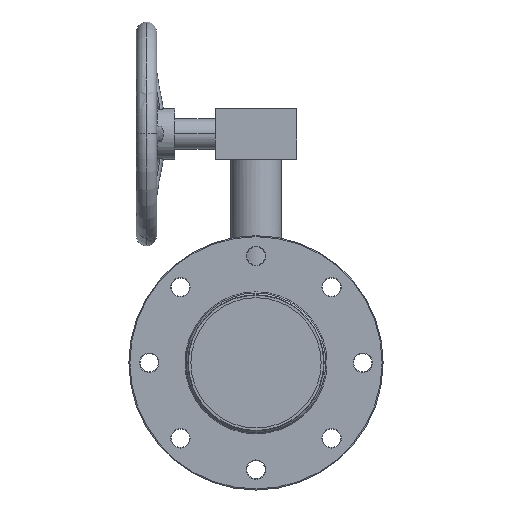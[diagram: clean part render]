
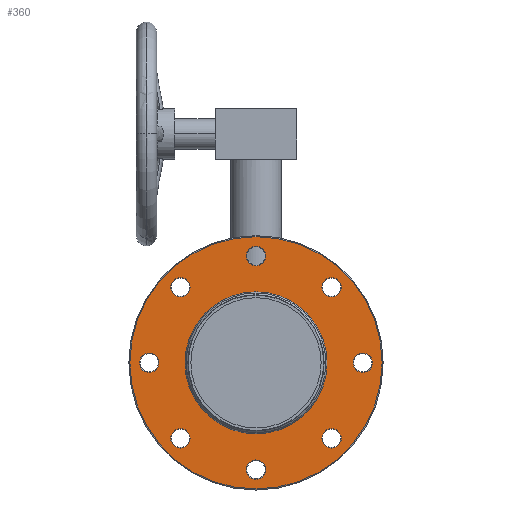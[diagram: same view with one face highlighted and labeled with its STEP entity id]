
A CAD part, front view. The second image highlights one B-rep face of the part: STEP entity #360.
In plain terms, the highlighted planar face has unit normal (0, -1, 0).
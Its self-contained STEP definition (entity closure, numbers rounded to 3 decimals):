
#220=PLANE('',#2508);
#360=ADVANCED_FACE('',(#847,#848,#849,#850,#851,#852,#853,#854,#855,#856),
#220,.T.);
#622=CIRCLE('',#2497,66.5);
#623=CIRCLE('',#2499,9.5);
#624=CIRCLE('',#2500,9.5);
#625=CIRCLE('',#2501,9.5);
#626=CIRCLE('',#2502,9.5);
#627=CIRCLE('',#2503,9.5);
#628=CIRCLE('',#2504,9.5);
#629=CIRCLE('',#2505,9.5);
#630=CIRCLE('',#2506,9.5);
#631=CIRCLE('',#2507,124.);
#847=FACE_BOUND('',#1151,.T.);
#848=FACE_BOUND('',#1152,.T.);
#849=FACE_BOUND('',#1153,.T.);
#850=FACE_BOUND('',#1154,.T.);
#851=FACE_BOUND('',#1155,.T.);
#852=FACE_BOUND('',#1156,.T.);
#853=FACE_BOUND('',#1157,.T.);
#854=FACE_BOUND('',#1158,.T.);
#855=FACE_BOUND('',#1159,.T.);
#856=FACE_BOUND('',#1160,.T.);
#1151=EDGE_LOOP('',(#1651));
#1152=EDGE_LOOP('',(#1652));
#1153=EDGE_LOOP('',(#1653));
#1154=EDGE_LOOP('',(#1654));
#1155=EDGE_LOOP('',(#1655));
#1156=EDGE_LOOP('',(#1656));
#1157=EDGE_LOOP('',(#1657));
#1158=EDGE_LOOP('',(#1658));
#1159=EDGE_LOOP('',(#1659));
#1160=EDGE_LOOP('',(#1660));
#1651=ORIENTED_EDGE('',*,*,#2169,.T.);
#1652=ORIENTED_EDGE('',*,*,#2170,.T.);
#1653=ORIENTED_EDGE('',*,*,#2171,.T.);
#1654=ORIENTED_EDGE('',*,*,#2172,.T.);
#1655=ORIENTED_EDGE('',*,*,#2173,.T.);
#1656=ORIENTED_EDGE('',*,*,#2174,.T.);
#1657=ORIENTED_EDGE('',*,*,#2175,.T.);
#1658=ORIENTED_EDGE('',*,*,#2176,.T.);
#1659=ORIENTED_EDGE('',*,*,#2177,.T.);
#1660=ORIENTED_EDGE('',*,*,#2168,.F.);
#1918=VERTEX_POINT('',#4092);
#1919=VERTEX_POINT('',#4095);
#1920=VERTEX_POINT('',#4097);
#1921=VERTEX_POINT('',#4099);
#1922=VERTEX_POINT('',#4101);
#1923=VERTEX_POINT('',#4103);
#1924=VERTEX_POINT('',#4105);
#1925=VERTEX_POINT('',#4107);
#1926=VERTEX_POINT('',#4109);
#1927=VERTEX_POINT('',#4111);
#2168=EDGE_CURVE('',#1918,#1918,#622,.T.);
#2169=EDGE_CURVE('',#1919,#1919,#623,.T.);
#2170=EDGE_CURVE('',#1920,#1920,#624,.T.);
#2171=EDGE_CURVE('',#1921,#1921,#625,.T.);
#2172=EDGE_CURVE('',#1922,#1922,#626,.T.);
#2173=EDGE_CURVE('',#1923,#1923,#627,.T.);
#2174=EDGE_CURVE('',#1924,#1924,#628,.T.);
#2175=EDGE_CURVE('',#1925,#1925,#629,.T.);
#2176=EDGE_CURVE('',#1926,#1926,#630,.T.);
#2177=EDGE_CURVE('',#1927,#1927,#631,.T.);
#2497=AXIS2_PLACEMENT_3D('',#4091,#3084,#3085);
#2499=AXIS2_PLACEMENT_3D('',#4094,#3088,#3089);
#2500=AXIS2_PLACEMENT_3D('',#4096,#3090,#3091);
#2501=AXIS2_PLACEMENT_3D('',#4098,#3092,#3093);
#2502=AXIS2_PLACEMENT_3D('',#4100,#3094,#3095);
#2503=AXIS2_PLACEMENT_3D('',#4102,#3096,#3097);
#2504=AXIS2_PLACEMENT_3D('',#4104,#3098,#3099);
#2505=AXIS2_PLACEMENT_3D('',#4106,#3100,#3101);
#2506=AXIS2_PLACEMENT_3D('',#4108,#3102,#3103);
#2507=AXIS2_PLACEMENT_3D('',#4110,#3104,#3105);
#2508=AXIS2_PLACEMENT_3D('',#4112,#3106,#3107);
#3084=DIRECTION('',(0.,-1.,0.));
#3085=DIRECTION('',(0.,0.,-1.));
#3088=DIRECTION('',(0.,1.,0.));
#3089=DIRECTION('',(0.,0.,-1.));
#3090=DIRECTION('',(0.,1.,0.));
#3091=DIRECTION('',(0.,0.,-1.));
#3092=DIRECTION('',(0.,1.,0.));
#3093=DIRECTION('',(0.,0.,-1.));
#3094=DIRECTION('',(0.,1.,0.));
#3095=DIRECTION('',(0.,0.,-1.));
#3096=DIRECTION('',(0.,1.,0.));
#3097=DIRECTION('',(0.,0.,-1.));
#3098=DIRECTION('',(0.,1.,0.));
#3099=DIRECTION('',(0.,0.,-1.));
#3100=DIRECTION('',(0.,1.,0.));
#3101=DIRECTION('',(0.,0.,-1.));
#3102=DIRECTION('',(0.,1.,0.));
#3103=DIRECTION('',(0.,0.,-1.));
#3104=DIRECTION('',(0.,-1.,0.));
#3105=DIRECTION('',(0.,0.,-1.));
#3106=DIRECTION('',(0.,-1.,0.));
#3107=DIRECTION('',(0.,0.,-1.));
#4091=CARTESIAN_POINT('',(0.,-64.027,0.));
#4092=CARTESIAN_POINT('',(0.,-64.027,-66.5));
#4094=CARTESIAN_POINT('',(74.246,-64.027,-74.246));
#4095=CARTESIAN_POINT('',(74.246,-64.027,-83.746));
#4096=CARTESIAN_POINT('',(0.,-64.027,-105.));
#4097=CARTESIAN_POINT('',(0.,-64.027,-114.5));
#4098=CARTESIAN_POINT('',(-74.246,-64.027,-74.246));
#4099=CARTESIAN_POINT('',(-74.246,-64.027,-83.746));
#4100=CARTESIAN_POINT('',(-105.,-64.027,0.));
#4101=CARTESIAN_POINT('',(-105.,-64.027,-9.5));
#4102=CARTESIAN_POINT('',(-74.246,-64.027,74.246));
#4103=CARTESIAN_POINT('',(-74.246,-64.027,64.746));
#4104=CARTESIAN_POINT('',(0.,-64.027,105.));
#4105=CARTESIAN_POINT('',(0.,-64.027,95.5));
#4106=CARTESIAN_POINT('',(74.246,-64.027,74.246));
#4107=CARTESIAN_POINT('',(74.246,-64.027,64.746));
#4108=CARTESIAN_POINT('',(105.,-64.027,0.));
#4109=CARTESIAN_POINT('',(105.,-64.027,-9.5));
#4110=CARTESIAN_POINT('',(0.,-64.027,0.));
#4111=CARTESIAN_POINT('',(0.,-64.027,-124.));
#4112=CARTESIAN_POINT('',(66.5,-64.027,0.));
